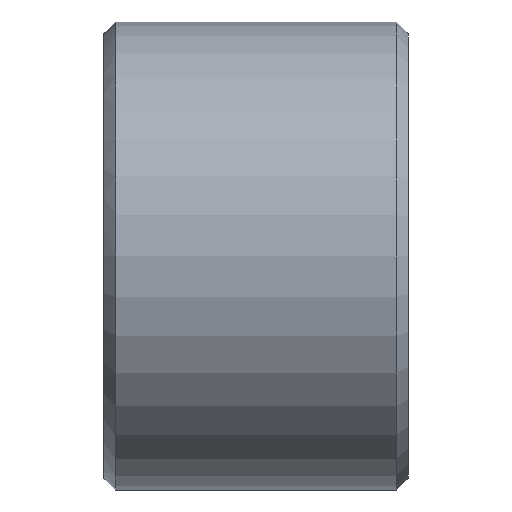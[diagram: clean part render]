
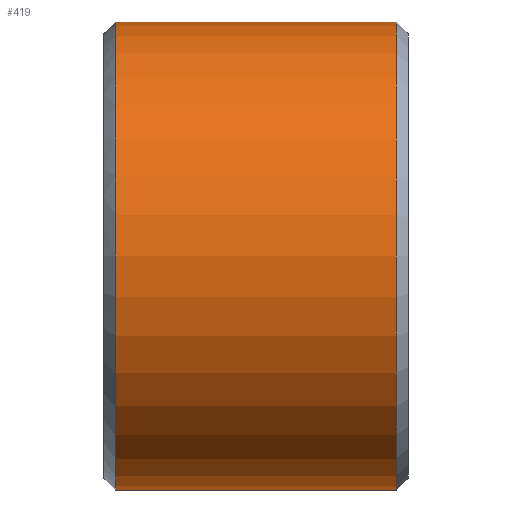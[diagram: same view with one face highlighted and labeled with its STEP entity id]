
A CAD part, front view. The second image highlights one B-rep face of the part: STEP entity #419.
In plain terms, the highlighted cylindrical face has radius 20 mm (diameter 40 mm), a partial arc.
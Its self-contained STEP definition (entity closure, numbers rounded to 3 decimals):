
#231=CARTESIAN_POINT('Vertex',(1.,0.,-20.)) ;
#238=CARTESIAN_POINT('Vertex',(1.,0.,20.)) ;
#267=CARTESIAN_POINT('Axis2P3D Location',(1.,0.,0.)) ;
#271=CARTESIAN_POINT('Vertex',(1.,-20.,0.)) ;
#274=CARTESIAN_POINT('Axis2P3D Location',(1.,0.,0.)) ;
#359=CARTESIAN_POINT('Line Origine',(26.,0.,20.)) ;
#363=CARTESIAN_POINT('Vertex',(25.,0.,20.)) ;
#377=CARTESIAN_POINT('Vertex',(25.,0.,-20.)) ;
#380=CARTESIAN_POINT('Line Origine',(26.,0.,-20.)) ;
#394=CARTESIAN_POINT('Axis2P3D Location',(26.,0.,0.)) ;
#399=CARTESIAN_POINT('Axis2P3D Location',(25.,0.,0.)) ;
#403=CARTESIAN_POINT('Vertex',(25.,-20.,0.)) ;
#406=CARTESIAN_POINT('Axis2P3D Location',(25.,0.,0.)) ;
#268=DIRECTION('Axis2P3D Direction',(1.,0.,-0.)) ;
#275=DIRECTION('Axis2P3D Direction',(1.,0.,-0.)) ;
#360=DIRECTION('Vector Direction',(-1.,0.,0.)) ;
#381=DIRECTION('Vector Direction',(-1.,0.,0.)) ;
#395=DIRECTION('Axis2P3D Direction',(-1.,-0.,-0.)) ;
#396=DIRECTION('Axis2P3D XDirection',(0.,0.,-1.)) ;
#400=DIRECTION('Axis2P3D Direction',(-1.,-0.,-0.)) ;
#407=DIRECTION('Axis2P3D Direction',(-1.,-0.,-0.)) ;
#269=AXIS2_PLACEMENT_3D('Circle Axis2P3D',#267,#268,$) ;
#276=AXIS2_PLACEMENT_3D('Circle Axis2P3D',#274,#275,$) ;
#397=AXIS2_PLACEMENT_3D('Cylinder Axis2P3D',#394,#395,#396) ;
#401=AXIS2_PLACEMENT_3D('Circle Axis2P3D',#399,#400,$) ;
#408=AXIS2_PLACEMENT_3D('Circle Axis2P3D',#406,#407,$) ;
#412=ORIENTED_EDGE('',*,*,#384,.T.) ;
#413=ORIENTED_EDGE('',*,*,#405,.F.) ;
#414=ORIENTED_EDGE('',*,*,#410,.F.) ;
#415=ORIENTED_EDGE('',*,*,#365,.T.) ;
#416=ORIENTED_EDGE('',*,*,#278,.T.) ;
#417=ORIENTED_EDGE('',*,*,#273,.T.) ;
#361=VECTOR('Line Direction',#360,1.) ;
#382=VECTOR('Line Direction',#381,1.) ;
#419=ADVANCED_FACE('352-32X26',(#418),#398,.T.) ;
#270=CIRCLE('generated circle',#269,20.) ;
#277=CIRCLE('generated circle',#276,20.) ;
#402=CIRCLE('generated circle',#401,20.) ;
#409=CIRCLE('generated circle',#408,20.) ;
#398=CYLINDRICAL_SURFACE('generated cylinder',#397,20.) ;
#273=EDGE_CURVE('',#272,#232,#270,.T.) ;
#278=EDGE_CURVE('',#239,#272,#277,.T.) ;
#365=EDGE_CURVE('',#364,#239,#362,.T.) ;
#384=EDGE_CURVE('',#232,#378,#383,.F.) ;
#405=EDGE_CURVE('',#404,#378,#402,.F.) ;
#410=EDGE_CURVE('',#364,#404,#409,.F.) ;
#411=EDGE_LOOP('',(#412,#413,#414,#415,#416,#417)) ;
#418=FACE_OUTER_BOUND('',#411,.T.) ;
#362=LINE('Line',#359,#361) ;
#383=LINE('Line',#380,#382) ;
#232=VERTEX_POINT('',#231) ;
#239=VERTEX_POINT('',#238) ;
#272=VERTEX_POINT('',#271) ;
#364=VERTEX_POINT('',#363) ;
#378=VERTEX_POINT('',#377) ;
#404=VERTEX_POINT('',#403) ;
